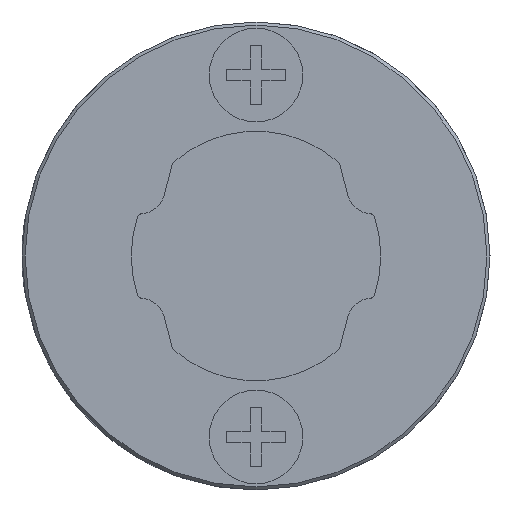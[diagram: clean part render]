
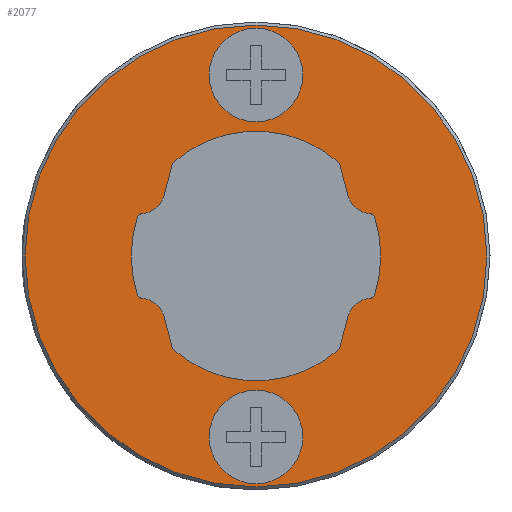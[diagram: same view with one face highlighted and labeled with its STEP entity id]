
A CAD part, left-side view. The second image highlights one B-rep face of the part: STEP entity #2077.
In plain terms, the highlighted planar face has unit normal (-1, 0, 0).
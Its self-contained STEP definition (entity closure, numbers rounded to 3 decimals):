
#50=PLANE('',#2275);
#168=LINE('',#3251,#378);
#169=LINE('',#3263,#379);
#170=LINE('',#3271,#380);
#171=LINE('',#3283,#381);
#378=VECTOR('',#2626,1000.);
#379=VECTOR('',#2637,1000.);
#380=VECTOR('',#2644,1000.);
#381=VECTOR('',#2655,1000.);
#701=ORIENTED_EDGE('',*,*,#1241,.F.);
#702=ORIENTED_EDGE('',*,*,#1242,.F.);
#703=ORIENTED_EDGE('',*,*,#1243,.F.);
#704=ORIENTED_EDGE('',*,*,#1244,.F.);
#705=ORIENTED_EDGE('',*,*,#1245,.F.);
#706=ORIENTED_EDGE('',*,*,#1246,.F.);
#707=ORIENTED_EDGE('',*,*,#1247,.T.);
#708=ORIENTED_EDGE('',*,*,#1248,.F.);
#709=ORIENTED_EDGE('',*,*,#1249,.F.);
#710=ORIENTED_EDGE('',*,*,#1250,.F.);
#711=ORIENTED_EDGE('',*,*,#1251,.T.);
#712=ORIENTED_EDGE('',*,*,#1252,.F.);
#713=ORIENTED_EDGE('',*,*,#1253,.F.);
#714=ORIENTED_EDGE('',*,*,#1254,.F.);
#715=ORIENTED_EDGE('',*,*,#1255,.F.);
#716=ORIENTED_EDGE('',*,*,#1256,.F.);
#717=ORIENTED_EDGE('',*,*,#1257,.T.);
#718=ORIENTED_EDGE('',*,*,#1258,.F.);
#719=ORIENTED_EDGE('',*,*,#1259,.F.);
#720=ORIENTED_EDGE('',*,*,#1260,.F.);
#721=ORIENTED_EDGE('',*,*,#1261,.T.);
#722=ORIENTED_EDGE('',*,*,#1262,.F.);
#723=ORIENTED_EDGE('',*,*,#1263,.F.);
#1241=EDGE_CURVE('',#1521,#1521,#1691,.T.);
#1242=EDGE_CURVE('',#1522,#1522,#1692,.F.);
#1243=EDGE_CURVE('',#1523,#1523,#1693,.F.);
#1244=EDGE_CURVE('',#1524,#1525,#1694,.F.);
#1245=EDGE_CURVE('',#1526,#1524,#1695,.F.);
#1246=EDGE_CURVE('',#1527,#1526,#168,.T.);
#1247=EDGE_CURVE('',#1527,#1528,#1696,.F.);
#1248=EDGE_CURVE('',#1529,#1528,#1697,.F.);
#1249=EDGE_CURVE('',#1530,#1529,#1698,.F.);
#1250=EDGE_CURVE('',#1531,#1530,#1699,.F.);
#1251=EDGE_CURVE('',#1531,#1532,#1700,.F.);
#1252=EDGE_CURVE('',#1533,#1532,#169,.T.);
#1253=EDGE_CURVE('',#1534,#1533,#1701,.F.);
#1254=EDGE_CURVE('',#1535,#1534,#1702,.F.);
#1255=EDGE_CURVE('',#1536,#1535,#1703,.F.);
#1256=EDGE_CURVE('',#1537,#1536,#170,.T.);
#1257=EDGE_CURVE('',#1537,#1538,#1704,.F.);
#1258=EDGE_CURVE('',#1539,#1538,#1705,.F.);
#1259=EDGE_CURVE('',#1540,#1539,#1706,.F.);
#1260=EDGE_CURVE('',#1541,#1540,#1707,.F.);
#1261=EDGE_CURVE('',#1541,#1542,#1708,.F.);
#1262=EDGE_CURVE('',#1543,#1542,#171,.T.);
#1263=EDGE_CURVE('',#1525,#1543,#1709,.F.);
#1521=VERTEX_POINT('',#3241);
#1522=VERTEX_POINT('',#3243);
#1523=VERTEX_POINT('',#3245);
#1524=VERTEX_POINT('',#3247);
#1525=VERTEX_POINT('',#3248);
#1526=VERTEX_POINT('',#3250);
#1527=VERTEX_POINT('',#3252);
#1528=VERTEX_POINT('',#3254);
#1529=VERTEX_POINT('',#3256);
#1530=VERTEX_POINT('',#3258);
#1531=VERTEX_POINT('',#3260);
#1532=VERTEX_POINT('',#3262);
#1533=VERTEX_POINT('',#3264);
#1534=VERTEX_POINT('',#3266);
#1535=VERTEX_POINT('',#3268);
#1536=VERTEX_POINT('',#3270);
#1537=VERTEX_POINT('',#3272);
#1538=VERTEX_POINT('',#3274);
#1539=VERTEX_POINT('',#3276);
#1540=VERTEX_POINT('',#3278);
#1541=VERTEX_POINT('',#3280);
#1542=VERTEX_POINT('',#3282);
#1543=VERTEX_POINT('',#3284);
#1691=CIRCLE('',#2276,7.4);
#1692=CIRCLE('',#2277,1.5);
#1693=CIRCLE('',#2278,1.5);
#1694=CIRCLE('',#2279,4.);
#1695=CIRCLE('',#2280,0.2);
#1696=CIRCLE('',#2281,0.8);
#1697=CIRCLE('',#2282,0.15);
#1698=CIRCLE('',#2283,4.);
#1699=CIRCLE('',#2284,0.15);
#1700=CIRCLE('',#2285,0.8);
#1701=CIRCLE('',#2286,0.2);
#1702=CIRCLE('',#2287,4.);
#1703=CIRCLE('',#2288,0.2);
#1704=CIRCLE('',#2289,0.8);
#1705=CIRCLE('',#2290,0.15);
#1706=CIRCLE('',#2291,4.);
#1707=CIRCLE('',#2292,0.15);
#1708=CIRCLE('',#2293,0.8);
#1709=CIRCLE('',#2294,0.2);
#1750=EDGE_LOOP('',(#701));
#1751=EDGE_LOOP('',(#702));
#1752=EDGE_LOOP('',(#703));
#1753=EDGE_LOOP('',(#704,#705,#706,#707,#708,#709,#710,#711,#712,#713,#714,
#715,#716,#717,#718,#719,#720,#721,#722,#723));
#1894=FACE_BOUND('',#1750,.T.);
#1895=FACE_BOUND('',#1751,.T.);
#1896=FACE_BOUND('',#1752,.T.);
#1897=FACE_BOUND('',#1753,.T.);
#2077=ADVANCED_FACE('',(#1894,#1895,#1896,#1897),#50,.F.);
#2275=AXIS2_PLACEMENT_3D('',#3239,#2614,#2615);
#2276=AXIS2_PLACEMENT_3D('',#3240,#2616,#2617);
#2277=AXIS2_PLACEMENT_3D('',#3242,#2618,#2619);
#2278=AXIS2_PLACEMENT_3D('',#3244,#2620,#2621);
#2279=AXIS2_PLACEMENT_3D('',#3246,#2622,#2623);
#2280=AXIS2_PLACEMENT_3D('',#3249,#2624,#2625);
#2281=AXIS2_PLACEMENT_3D('',#3253,#2627,#2628);
#2282=AXIS2_PLACEMENT_3D('',#3255,#2629,#2630);
#2283=AXIS2_PLACEMENT_3D('',#3257,#2631,#2632);
#2284=AXIS2_PLACEMENT_3D('',#3259,#2633,#2634);
#2285=AXIS2_PLACEMENT_3D('',#3261,#2635,#2636);
#2286=AXIS2_PLACEMENT_3D('',#3265,#2638,#2639);
#2287=AXIS2_PLACEMENT_3D('',#3267,#2640,#2641);
#2288=AXIS2_PLACEMENT_3D('',#3269,#2642,#2643);
#2289=AXIS2_PLACEMENT_3D('',#3273,#2645,#2646);
#2290=AXIS2_PLACEMENT_3D('',#3275,#2647,#2648);
#2291=AXIS2_PLACEMENT_3D('',#3277,#2649,#2650);
#2292=AXIS2_PLACEMENT_3D('',#3279,#2651,#2652);
#2293=AXIS2_PLACEMENT_3D('',#3281,#2653,#2654);
#2294=AXIS2_PLACEMENT_3D('',#3285,#2656,#2657);
#2614=DIRECTION('',(1.,0.,0.));
#2615=DIRECTION('',(0.,0.,-1.));
#2616=DIRECTION('',(1.,0.,0.));
#2617=DIRECTION('',(0.,0.,-1.));
#2618=DIRECTION('',(1.,0.,0.));
#2619=DIRECTION('',(0.,0.,-1.));
#2620=DIRECTION('',(1.,0.,0.));
#2621=DIRECTION('',(0.,0.,-1.));
#2622=DIRECTION('',(1.,0.,0.));
#2623=DIRECTION('',(0.,0.,-1.));
#2624=DIRECTION('',(1.,0.,0.));
#2625=DIRECTION('',(0.,0.,-1.));
#2626=DIRECTION('',(0.,0.253,0.967));
#2627=DIRECTION('',(1.,0.,0.));
#2628=DIRECTION('',(0.,0.,-1.));
#2629=DIRECTION('',(1.,0.,0.));
#2630=DIRECTION('',(0.,0.,-1.));
#2631=DIRECTION('',(1.,0.,0.));
#2632=DIRECTION('',(0.,0.,-1.));
#2633=DIRECTION('',(1.,0.,0.));
#2634=DIRECTION('',(0.,0.,-1.));
#2635=DIRECTION('',(1.,0.,0.));
#2636=DIRECTION('',(0.,0.,-1.));
#2637=DIRECTION('',(0.,-0.253,0.967));
#2638=DIRECTION('',(1.,0.,0.));
#2639=DIRECTION('',(0.,0.,-1.));
#2640=DIRECTION('',(1.,0.,0.));
#2641=DIRECTION('',(0.,0.,-1.));
#2642=DIRECTION('',(1.,0.,0.));
#2643=DIRECTION('',(0.,0.,-1.));
#2644=DIRECTION('',(0.,-0.253,-0.967));
#2645=DIRECTION('',(1.,0.,0.));
#2646=DIRECTION('',(0.,0.,-1.));
#2647=DIRECTION('',(1.,0.,0.));
#2648=DIRECTION('',(0.,0.,-1.));
#2649=DIRECTION('',(1.,0.,0.));
#2650=DIRECTION('',(0.,0.,-1.));
#2651=DIRECTION('',(1.,0.,0.));
#2652=DIRECTION('',(0.,0.,-1.));
#2653=DIRECTION('',(1.,0.,0.));
#2654=DIRECTION('',(0.,0.,-1.));
#2655=DIRECTION('',(0.,0.253,-0.967));
#2656=DIRECTION('',(1.,0.,0.));
#2657=DIRECTION('',(0.,0.,-1.));
#3239=CARTESIAN_POINT('',(-18.5,0.,0.));
#3240=CARTESIAN_POINT('',(-18.5,0.,0.));
#3241=CARTESIAN_POINT('',(-18.5,0.,-7.4));
#3242=CARTESIAN_POINT('',(-18.5,0.,-5.8));
#3243=CARTESIAN_POINT('',(-18.5,0.,-7.3));
#3244=CARTESIAN_POINT('',(-18.5,0.,5.8));
#3245=CARTESIAN_POINT('',(-18.5,0.,4.3));
#3246=CARTESIAN_POINT('',(-18.5,0.,0.));
#3247=CARTESIAN_POINT('',(-18.5,-2.637,3.008));
#3248=CARTESIAN_POINT('',(-18.5,2.637,3.008));
#3249=CARTESIAN_POINT('',(-18.5,-2.5,2.862));
#3250=CARTESIAN_POINT('',(-18.5,-2.693,2.913));
#3251=CARTESIAN_POINT('',(-18.5,-3.234,0.846));
#3252=CARTESIAN_POINT('',(-18.5,-2.946,1.947));
#3253=CARTESIAN_POINT('',(-18.5,-3.72,2.15));
#3254=CARTESIAN_POINT('',(-18.5,-3.667,1.352));
#3255=CARTESIAN_POINT('',(-18.5,-3.658,1.202));
#3256=CARTESIAN_POINT('',(-18.5,-3.8,1.249));
#3257=CARTESIAN_POINT('',(-18.5,0.,0.));
#3258=CARTESIAN_POINT('',(-18.5,-3.8,-1.249));
#3259=CARTESIAN_POINT('',(-18.5,-3.658,-1.202));
#3260=CARTESIAN_POINT('',(-18.5,-3.667,-1.352));
#3261=CARTESIAN_POINT('',(-18.5,-3.72,-2.15));
#3262=CARTESIAN_POINT('',(-18.5,-2.946,-1.947));
#3263=CARTESIAN_POINT('',(-18.5,-3.234,-0.846));
#3264=CARTESIAN_POINT('',(-18.5,-2.693,-2.913));
#3265=CARTESIAN_POINT('',(-18.5,-2.5,-2.862));
#3266=CARTESIAN_POINT('',(-18.5,-2.637,-3.008));
#3267=CARTESIAN_POINT('',(-18.5,0.,0.));
#3268=CARTESIAN_POINT('',(-18.5,2.637,-3.008));
#3269=CARTESIAN_POINT('',(-18.5,2.5,-2.862));
#3270=CARTESIAN_POINT('',(-18.5,2.693,-2.913));
#3271=CARTESIAN_POINT('',(-18.5,3.234,-0.846));
#3272=CARTESIAN_POINT('',(-18.5,2.946,-1.947));
#3273=CARTESIAN_POINT('',(-18.5,3.72,-2.15));
#3274=CARTESIAN_POINT('',(-18.5,3.667,-1.352));
#3275=CARTESIAN_POINT('',(-18.5,3.658,-1.202));
#3276=CARTESIAN_POINT('',(-18.5,3.8,-1.249));
#3277=CARTESIAN_POINT('',(-18.5,0.,0.));
#3278=CARTESIAN_POINT('',(-18.5,3.8,1.249));
#3279=CARTESIAN_POINT('',(-18.5,3.658,1.202));
#3280=CARTESIAN_POINT('',(-18.5,3.667,1.352));
#3281=CARTESIAN_POINT('',(-18.5,3.72,2.15));
#3282=CARTESIAN_POINT('',(-18.5,2.946,1.947));
#3283=CARTESIAN_POINT('',(-18.5,3.234,0.846));
#3284=CARTESIAN_POINT('',(-18.5,2.693,2.913));
#3285=CARTESIAN_POINT('',(-18.5,2.5,2.862));
